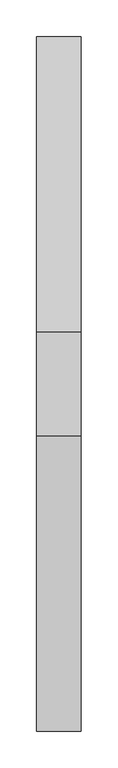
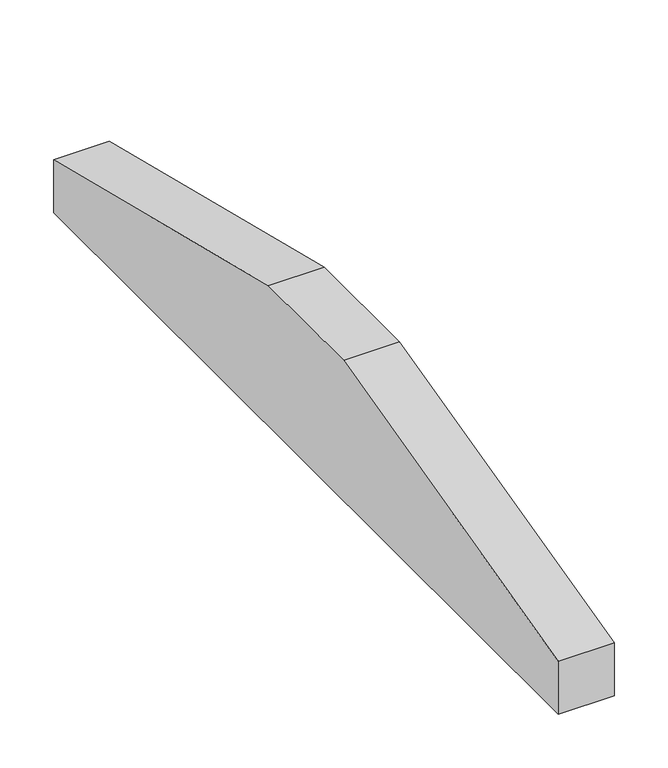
"""IFC4 building model written with IfcOpenShell, lengths in millimetres: proxy geometry, Modelos genéricos 169 : Modelos genéricos 144."""

from ifc_helpers import new_model, si_unit, frame, origin, place, context, project, spatial, polyline, outline, extrude, source, transform, mapped, element, save


def generic_models_5e8edf85(model_context):
    return source(origin(), model_context, "Body", "SweptSolid", [
        extrude(outline(polyline([(2018.6238165, 4209.7515316), (2418.6238165, 4110.0203305), (2418.6238165, 4049.7515316), (1478.6238165, 4049.7515316), (1478.6238165, 4110.0203305), (1878.6238165, 4209.7515316), (2018.6238165, 4209.7515316)])), frame((62633.4472467, 0.0, 0.0), z_axis=(1.0, 0.0, 0.0), x_axis=(0.0, 1.0, 0.0)), (0.0, 0.0, 1.0), 60.0),
    ])


if __name__ == "__main__":
    model = new_model("IFC4")
    model_context = context("Model", 3, world=origin())
    ifc_project = project(units=[si_unit("LENGTHUNIT", "METRE", prefix="MILLI")], contexts=[model_context])
    site = spatial("IfcSite", under=ifc_project)
    building = spatial("IfcBuilding", under=site)
    placement = place(None, origin())
    generic_models_shape = generic_models_5e8edf85(model_context)
    element("IfcBuildingElementProxy", 1, Name="Modelos genéricos 169 : Modelos genéricos 144", ObjectType="Modelos genéricos 169 : Modelos genéricos 144", at=placement, inside=building, context=model_context, shape_type="MappedRepresentation", body=[
        mapped(generic_models_shape, transform((0.0, 0.0, 0.0), x_axis=(1.0, 0.0, 0.0), y_axis=(0.0, 1.0, 0.0), z_axis=(0.0, 0.0, 1.0))),
    ])
    save(model, "model.ifc")
